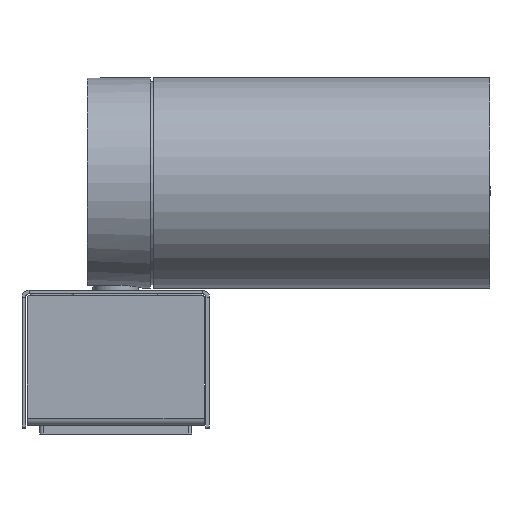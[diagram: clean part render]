
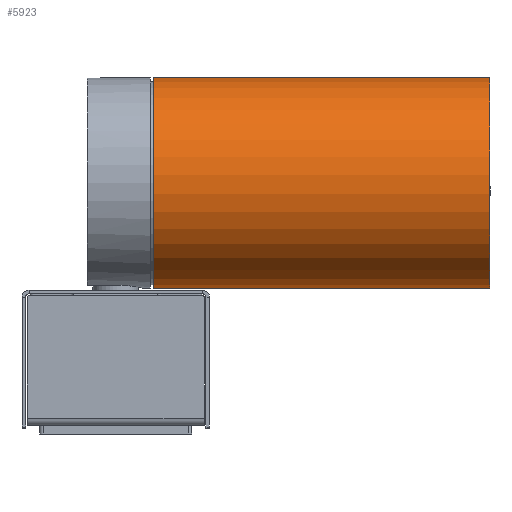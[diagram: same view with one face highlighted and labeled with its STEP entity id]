
A CAD part, front view. The second image highlights one B-rep face of the part: STEP entity #5923.
In plain terms, the highlighted cylindrical face has radius 30 mm (diameter 60 mm), a full revolution.
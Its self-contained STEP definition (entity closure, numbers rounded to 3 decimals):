
#715=LINE('',#10046,#1137);
#1137=VECTOR('',#8155,30.);
#1300=CYLINDRICAL_SURFACE('',#6567,30.);
#1611=FACE_OUTER_BOUND('',#2005,.T.);
#2005=EDGE_LOOP('',(#5008,#5009,#5010,#5011));
#2341=CIRCLE('',#6566,30.);
#2342=CIRCLE('',#6568,30.);
#2832=VERTEX_POINT('',#10041);
#2833=VERTEX_POINT('',#10044);
#3572=EDGE_CURVE('',#2832,#2832,#2341,.T.);
#3573=EDGE_CURVE('',#2833,#2833,#2342,.T.);
#3574=EDGE_CURVE('',#2833,#2832,#715,.T.);
#5008=ORIENTED_EDGE('',*,*,#3573,.F.);
#5009=ORIENTED_EDGE('',*,*,#3574,.T.);
#5010=ORIENTED_EDGE('',*,*,#3572,.F.);
#5011=ORIENTED_EDGE('',*,*,#3574,.F.);
#5923=ADVANCED_FACE('',(#1611),#1300,.T.);
#6566=AXIS2_PLACEMENT_3D('',#10042,#8149,#8150);
#6567=AXIS2_PLACEMENT_3D('',#10043,#8151,#8152);
#6568=AXIS2_PLACEMENT_3D('',#10045,#8153,#8154);
#8149=DIRECTION('center_axis',(1.,0.,0.));
#8150=DIRECTION('ref_axis',(0.,0.412,0.911));
#8151=DIRECTION('center_axis',(-1.,0.,0.));
#8152=DIRECTION('ref_axis',(0.,0.412,0.911));
#8153=DIRECTION('center_axis',(-1.,0.,0.));
#8154=DIRECTION('ref_axis',(0.,0.412,0.911));
#8155=DIRECTION('',(1.,0.,0.));
#10041=CARTESIAN_POINT('',(106.8,-53.354,41.762));
#10042=CARTESIAN_POINT('Origin',(106.8,-41.,69.1));
#10043=CARTESIAN_POINT('Origin',(58.8,-41.,69.1));
#10044=CARTESIAN_POINT('',(10.8,-53.354,41.762));
#10045=CARTESIAN_POINT('Origin',(10.8,-41.,69.1));
#10046=CARTESIAN_POINT('',(58.8,-53.354,41.762));
